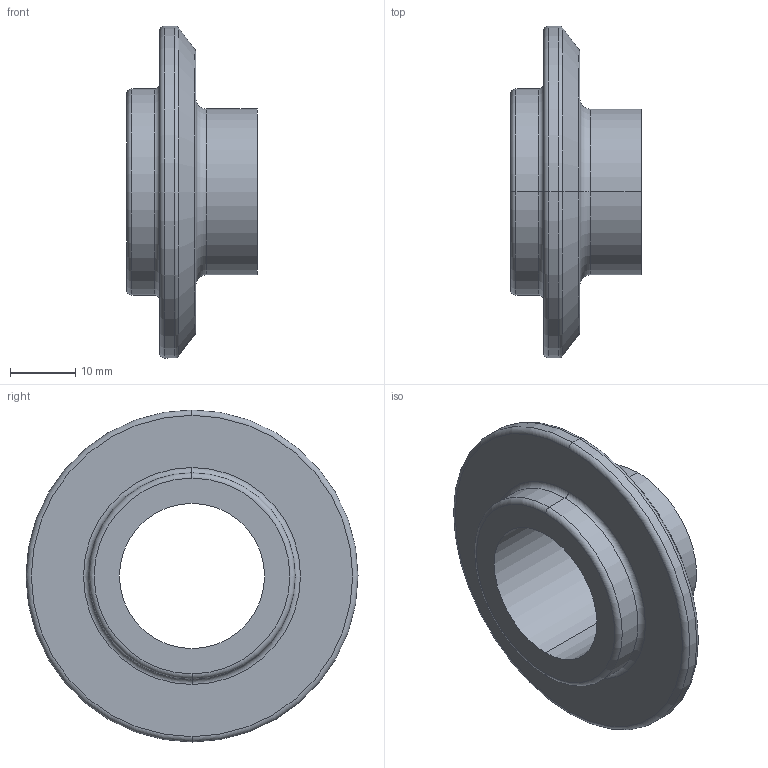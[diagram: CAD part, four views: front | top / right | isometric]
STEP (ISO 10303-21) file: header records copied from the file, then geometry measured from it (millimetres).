
FILE_DESCRIPTION (( 'STEP AP214' ), '1' );
FILE_NAME ('E14WI 1.0 REV2.STEP', '2025-07-18T14:30:12', ( '' ), ( '' ), 'SwSTEP 2.0', 'SolidWorks 2022', '' );
FILE_SCHEMA (( 'AUTOMOTIVE_DESIGN' ));
Length unit declared in the file: inch
Products named in the file (1): E14WI 1.0 REV2
Bounding box: 19.99 x 50.8 x 50.8 mm (x, y, z)
Volume: 11421 mm3; surface area: 6305.4 mm2
Topology: 1 solids, 1 shells, 26 faces, 52 edges, 30 vertices
Faces by surface type: torus 12, cylinder 8, plane 4, cone 2
Entity records: 730 total; most frequent: DIRECTION 148, CARTESIAN_POINT 109, ORIENTED_EDGE 104, AXIS2_PLACEMENT_3D 69, EDGE_CURVE 52, CIRCLE 42, VERTEX_POINT 30, EDGE_LOOP 30
